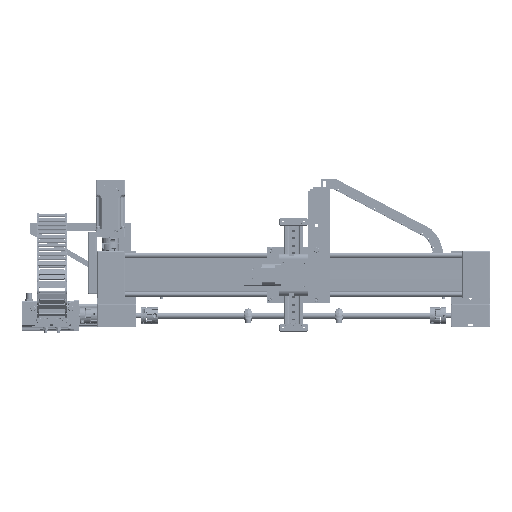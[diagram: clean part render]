
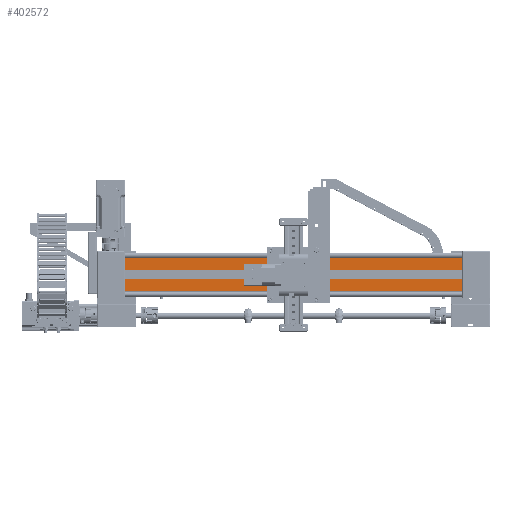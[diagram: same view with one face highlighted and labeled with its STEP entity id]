
A CAD part, front view. The second image highlights one B-rep face of the part: STEP entity #402572.
In plain terms, the highlighted planar face has unit normal (0, -1, 0) as drawn and (0, 0, -1) by its records, which use the part's own axes.
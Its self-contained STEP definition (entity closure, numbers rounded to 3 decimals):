
#27407=FACE_OUTER_BOUND('',#51142,.T.);
#51142=EDGE_LOOP('',(#299530,#299531,#299532,#299533));
#96533=LINE('',#625932,#134587);
#96710=LINE('',#626537,#134764);
#96983=LINE('',#627233,#135037);
#97019=LINE('',#627308,#135073);
#134587=VECTOR('',#494757,10.);
#134764=VECTOR('',#495218,10.);
#135037=VECTOR('',#496049,10.);
#135073=VECTOR('',#496163,10.);
#174524=VERTEX_POINT('',#625929);
#174525=VERTEX_POINT('',#625931);
#174810=VERTEX_POINT('',#626534);
#174811=VERTEX_POINT('',#626536);
#220148=EDGE_CURVE('',#174525,#174524,#96533,.T.);
#220452=EDGE_CURVE('',#174811,#174810,#96710,.T.);
#220801=EDGE_CURVE('',#174811,#174524,#96983,.T.);
#220837=EDGE_CURVE('',#174810,#174525,#97019,.T.);
#299530=ORIENTED_EDGE('',*,*,#220148,.T.);
#299531=ORIENTED_EDGE('',*,*,#220801,.F.);
#299532=ORIENTED_EDGE('',*,*,#220452,.T.);
#299533=ORIENTED_EDGE('',*,*,#220837,.T.);
#386073=PLANE('',#432497);
#402572=ADVANCED_FACE('',(#27407),#386073,.T.);
#432497=AXIS2_PLACEMENT_3D('',#627309,#496164,#496165);
#494757=DIRECTION('',(0.,-1.,0.));
#495218=DIRECTION('',(0.,1.,0.));
#496049=DIRECTION('',(1.,0.,0.));
#496163=DIRECTION('',(1.,0.,0.));
#496164=DIRECTION('center_axis',(0.,0.,
-1.));
#496165=DIRECTION('ref_axis',(1.,0.,0.));
#625929=CARTESIAN_POINT('',(-7.5,39.762,376.5));
#625931=CARTESIAN_POINT('',(-7.5,102.762,376.5));
#625932=CARTESIAN_POINT('',(-7.5,39.762,376.5));
#626534=CARTESIAN_POINT('',(-665.5,102.762,376.5));
#626536=CARTESIAN_POINT('',(-665.5,39.762,376.5));
#626537=CARTESIAN_POINT('',(-665.5,39.762,376.5));
#627233=CARTESIAN_POINT('',(-665.5,39.762,376.5));
#627308=CARTESIAN_POINT('',(-665.5,102.762,376.5));
#627309=CARTESIAN_POINT('Origin',(-665.5,102.762,376.5));
